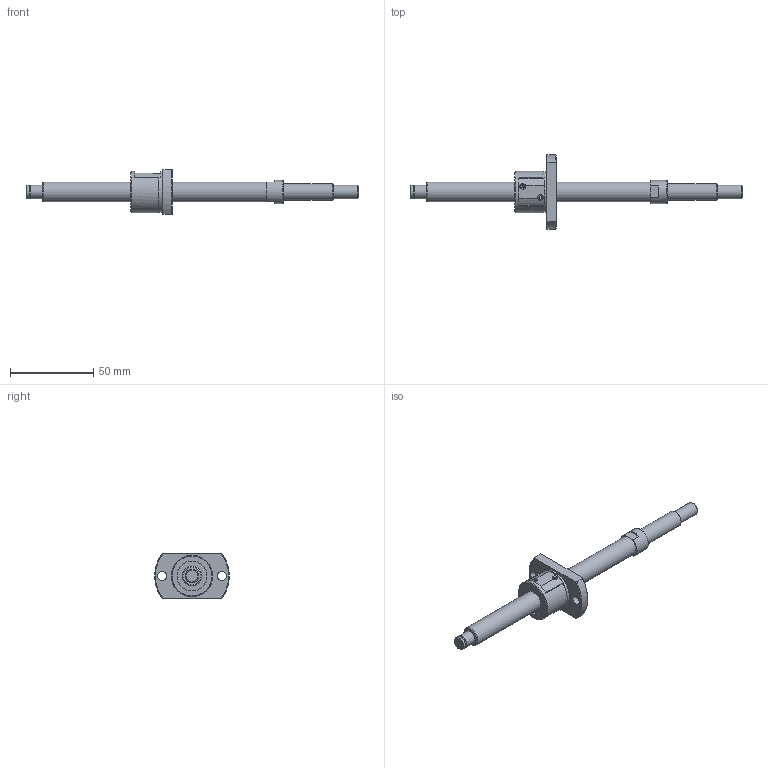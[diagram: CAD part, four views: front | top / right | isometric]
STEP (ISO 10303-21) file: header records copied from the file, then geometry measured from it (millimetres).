
FILE_DESCRIPTION(/* description */ ('STEP AP214'),/* implementation_level */ '2;1');
FILE_NAME(/* name */ 'SG1202-131R200C5B0X(53)',/* time_stamp */ '2026-07-24T15:19:15+02:00',/* author */ ('License CC BY-ND 4.0'),/* organization */ ('CADENAS'),/* preprocessor_version */ 'ST-DEVELOPER v20',/* originating_system */ 'PARTsolutions',/* authorisation */ ' ');
FILE_SCHEMA (('AUTOMOTIVE_DESIGN {1 0 10303 214 3 1 1}'));
Length unit declared in the file: millimetre
Products named in the file (3): SG1202-131R200C5B0X(53); SG1202-131R200C5B_shaft; SG1202 C5_nut
Assembly tree (2 placements, depth 2):
  SG1202-131R200C5B0X(53)
    SG1202-131R200C5B_shaft
    SG1202 C5_nut
Bounding box: 200 x 45 x 27 mm (x, y, z)
Volume: 32810.8 mm3; surface area: 12791.9 mm2
Topology: 2 solids, 2 shells, 79 faces, 188 edges, 123 vertices
Faces by surface type: plane 38, cylinder 26, cone 14, torus 1
Full cylindrical faces by diameter (mm): 5.5 x2, 7.6 x1, 8 x3, 10 x1, 12 x2, 14 x1, 18 x2, 24.5 x1, 25 x1
Entity records: 2197 total; most frequent: CARTESIAN_POINT 408, DIRECTION 374, ORIENTED_EDGE 306, AXIS2_PLACEMENT_3D 157, EDGE_CURVE 153, EDGE_LOOP 120, FACE_BOUND 120, VERTEX_POINT 113
